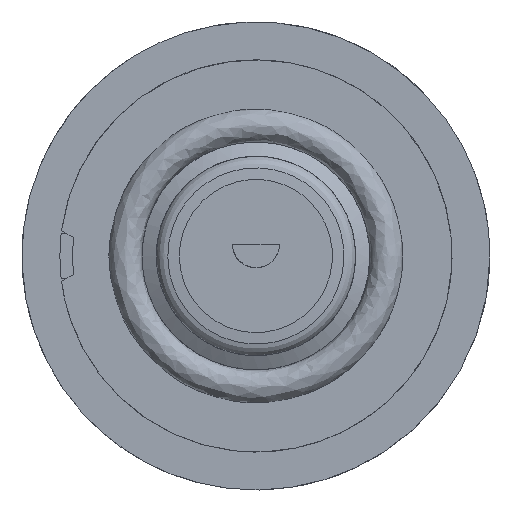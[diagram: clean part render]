
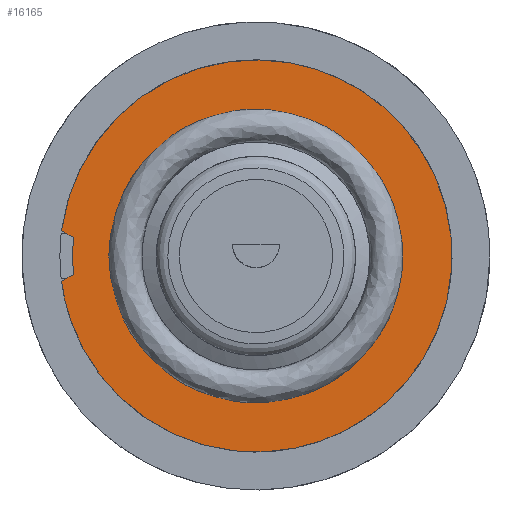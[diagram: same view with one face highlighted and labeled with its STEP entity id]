
A CAD part, front view. The second image highlights one B-rep face of the part: STEP entity #16165.
In plain terms, the highlighted free-form (B-spline) face has degree [1, 1] with [2, 2] control points.
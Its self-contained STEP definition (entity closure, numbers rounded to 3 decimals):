
#15975=CARTESIAN_POINT('V3',(-15.37,-5.0,2.0));
#15976=VERTEX_POINT('V3',#15975);
#15982=CARTESIAN_POINT('V2',(-15.37,-5.0,-2.0));
#15983=VERTEX_POINT('V2',#15982);
#15984=CARTESIAN_POINT('E2',(-15.37,-5.,
   2.));
#15985=CARTESIAN_POINT('E2',(-12.372,-5.,
   25.041));
#15986=CARTESIAN_POINT('E2',(7.75,-5.,
   13.423));
#15987=CARTESIAN_POINT('E2',(31.,-5.,
   0.));
#15988=CARTESIAN_POINT('E2',(7.75,-5.,
   -13.423));
#15989=CARTESIAN_POINT('E2',(-12.372,-5.,
   -25.041));
#15990=CARTESIAN_POINT('E2',(-15.37,-5.,
   -2.));
#15998=(BOUNDED_CURVE()B_SPLINE_CURVE(2,(#15984,#15985,#15986,
   #15987,#15988,#15989,#15990),.CIRCULAR_ARC.,.F.,.U.)
   B_SPLINE_CURVE_WITH_KNOTS((3,2,2,3),(0.024,
   0.333,0.667,0.976),
   .UNSPECIFIED.)CURVE()GEOMETRIC_REPRESENTATION_ITEM()
   RATIONAL_B_SPLINE_CURVE((0.933,0.536,
   1.0,0.5,1.0,0.536,0.933))
   REPRESENTATION_ITEM('E2'));
#15999=EDGE_CURVE('E2',#15976,#15983,#15998,.T.);
#16025=CARTESIAN_POINT('V1',(-14.427,-5.0,
   -1.455));
#16026=VERTEX_POINT('V1',#16025);
#16034=CARTESIAN_POINT('V4',(-14.427,-5.0,
   1.455));
#16035=VERTEX_POINT('V4',#16034);
#16036=CARTESIAN_POINT('E4',(-14.427,-5.0,
   1.455));
#16037=CARTESIAN_POINT('E4',(-14.574,-5.0,0.)
   );
#16038=CARTESIAN_POINT('E4',(-14.427,-5.0,
   -1.455));
#16046=(BOUNDED_CURVE()B_SPLINE_CURVE(2,(#16036,#16037,#16038),
   .CIRCULAR_ARC.,.F.,.U.)CURVE()GEOMETRIC_REPRESENTATION_ITEM()
   QUASI_UNIFORM_CURVE()RATIONAL_B_SPLINE_CURVE((1.0,
   0.995,1.0))REPRESENTATION_ITEM('E4'));
#16047=EDGE_CURVE('E4',#16035,#16026,#16046,.T.);
#16078=CARTESIAN_POINT('E3',(-15.37,-5.0,2.0));
#16079=CARTESIAN_POINT('E3',(-14.427,-5.0,
   1.455));
#16080=QUASI_UNIFORM_CURVE('E3',1,(#16078,#16079),.POLYLINE_FORM.,
   .F.,.U.);
#16081=EDGE_CURVE('E3',#15976,#16035,#16080,.T.);
#16123=CARTESIAN_POINT('E1',(-14.427,-5.0,
   -1.455));
#16124=CARTESIAN_POINT('E1',(-15.37,-5.0,-2.0));
#16125=QUASI_UNIFORM_CURVE('E1',1,(#16123,#16124),.POLYLINE_FORM.,
   .F.,.U.);
#16126=EDGE_CURVE('E1',#16026,#15983,#16125,.T.);
#16133=CARTESIAN_POINT('F1',(17.05,-5.,
   -17.05));
#16134=CARTESIAN_POINT('F1',(17.05,-5.,
   17.05));
#16135=CARTESIAN_POINT('F1',(-17.05,-5.,
   -17.05));
#16136=CARTESIAN_POINT('F1',(-17.05,-5.,
   17.05));
#16137=QUASI_UNIFORM_SURFACE('F1',1,1,((#16133,#16135),(#16134,
   #16136)),.PLANE_SURF.,.F.,.F.,.U.);
#16138=ORIENTED_EDGE('E1',*,*,#16126,.T.);
#16139=ORIENTED_EDGE('E2',*,*,#15999,.F.);
#16140=ORIENTED_EDGE('E3',*,*,#16081,.T.);
#16141=ORIENTED_EDGE('E4',*,*,#16047,.T.);
#16142=EDGE_LOOP('F1',(#16138,#16139,#16140,#16141));
#16143=FACE_OUTER_BOUND('F1',#16142,.T.);
#16144=CARTESIAN_POINT('V5',(10.31,-5.,
   0.));
#16145=VERTEX_POINT('V5',#16144);
#16146=CARTESIAN_POINT('E5',(10.31,-5.,
   0.0));
#16147=CARTESIAN_POINT('E5',(10.31,-5.,
   -17.857));
#16148=CARTESIAN_POINT('E5',(-5.155,-5.,
   -8.929));
#16149=CARTESIAN_POINT('E5',(-20.62,-5.,
   0.));
#16150=CARTESIAN_POINT('E5',(-5.155,-5.,
   8.929));
#16151=CARTESIAN_POINT('E5',(10.31,-5.,
   17.857));
#16152=CARTESIAN_POINT('E5',(10.31,-5.,
   0.0));
#16160=(BOUNDED_CURVE()B_SPLINE_CURVE(2,(#16146,#16147,#16148,
   #16149,#16150,#16151,#16152),.CIRCULAR_ARC.,.T.,.U.)
   B_SPLINE_CURVE_WITH_KNOTS((3,2,2,3),(0.0,4.952,
   9.904,14.856),.UNSPECIFIED.)CURVE()
   GEOMETRIC_REPRESENTATION_ITEM()RATIONAL_B_SPLINE_CURVE((1.0,
   0.5,1.0,0.5,1.0,0.5,1.0)
   )REPRESENTATION_ITEM('E5'));
#16161=EDGE_CURVE('E5',#16145,#16145,#16160,.T.);
#16162=ORIENTED_EDGE('E5',*,*,#16161,.T.);
#16163=EDGE_LOOP('F1',(#16162));
#16164=FACE_BOUND('F1',#16163,.T.);
#16165=ADVANCED_FACE('F1',(#16143,#16164),#16137,.T.);
